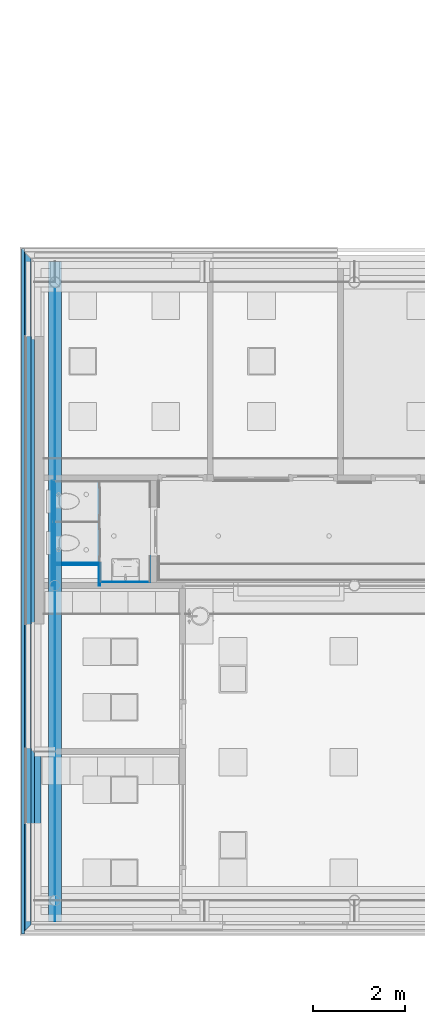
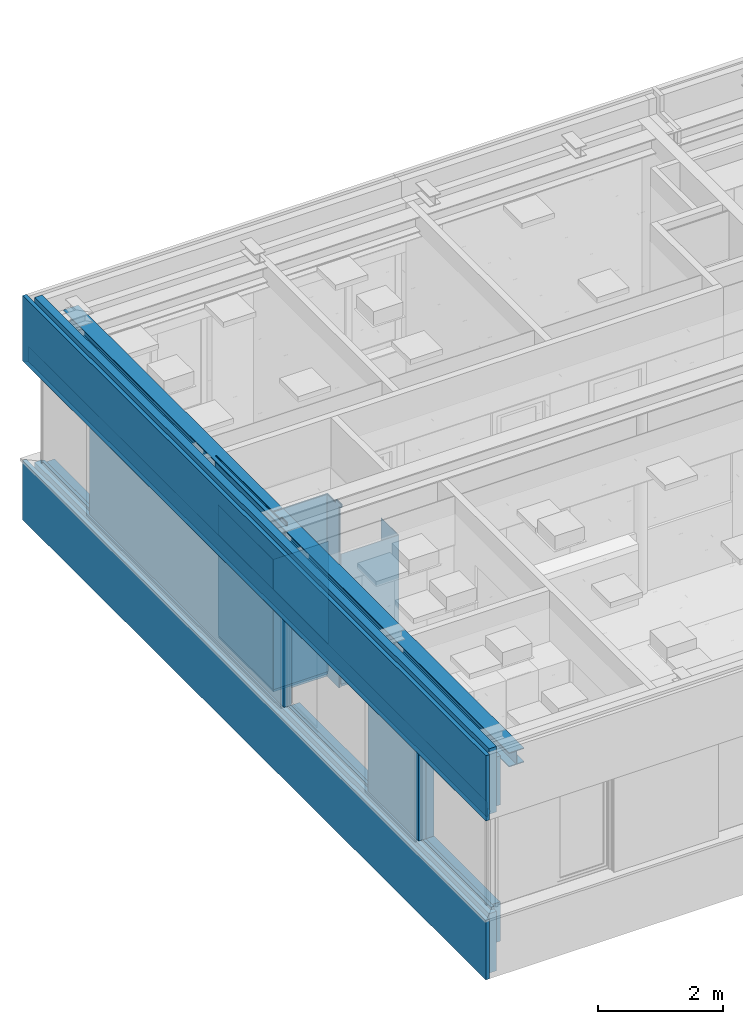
# One storey, part 91 of 347: 23 building element parts, 5 openings, 12 elements without a shape of their own, plus 1 element that does not belong to this part.
"""IFC2X3 building model written with IfcOpenShell, lengths in millimetres."""

from ifc_helpers import new_model, entity, si_unit, converted_unit, derived_unit, money_unit, direction, frame, origin_with_axes, place, context, subcontext, project, spatial, faceted_brep, material, type_object, element, aggregate, save


model = new_model("IFC2X3")

# Units and contexts
model_context = context("Model", 3, precision=0.01, world=origin_with_axes(), true_north=direction((0.0, 1.0)))
plan_context = context("Plan", 3, precision=0.01, world=origin_with_axes(), true_north=direction((0.0, 1.0)))
body_context = subcontext(model_context, "Body", "Model", "MODEL_VIEW")
ifc_project = project(units=[si_unit("LENGTHUNIT", "METRE", prefix="MILLI"), si_unit("AREAUNIT", "SQUARE_METRE"), si_unit("VOLUMEUNIT", "CUBIC_METRE"), converted_unit("PLANEANGLEUNIT", "DEGREE", entity("IfcPlaneAngleMeasure", 0.0174532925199), si_unit("PLANEANGLEUNIT", "RADIAN"), dimensions=[0, 0, 0, 0, 0, 0, 0]), money_unit("EUR"), converted_unit("TIMEUNIT", "Year", entity("IfcTimeMeasure", 31556926.0), si_unit("TIMEUNIT", "SECOND"), dimensions=[0, 0, 1, 0, 0, 0, 0]), si_unit("MASSUNIT", "GRAM", prefix="KILO"), si_unit("THERMODYNAMICTEMPERATUREUNIT", "DEGREE_CELSIUS"), si_unit("LUMINOUSINTENSITYUNIT", "LUMEN"), si_unit("ENERGYUNIT", "JOULE", prefix="MEGA"), derived_unit("THERMALCONDUCTANCEUNIT", [(si_unit("POWERUNIT", "WATT"), 1), (si_unit("LENGTHUNIT", "METRE"), -1), (si_unit("THERMODYNAMICTEMPERATUREUNIT", "KELVIN"), -1)]), derived_unit("SPECIFICHEATCAPACITYUNIT", [(si_unit("ENERGYUNIT", "JOULE"), 1), (si_unit("MASSUNIT", "GRAM", prefix="KILO"), -1), (si_unit("THERMODYNAMICTEMPERATUREUNIT", "KELVIN"), -1)]), derived_unit("MASSDENSITYUNIT", [(si_unit("MASSUNIT", "GRAM", prefix="KILO"), 1), (si_unit("VOLUMEUNIT", "CUBIC_METRE"), -1)])], contexts=[model_context, plan_context])

# Site, building, storey
site_placement = place(None, origin_with_axes())
site = spatial("IfcSite", under=ifc_project, at=site_placement, Name="Site", CompositionType="ELEMENT")
building_placement = place(site_placement, origin_with_axes())
building = spatial("IfcBuilding", under=site, at=building_placement, Name="Naam gebouw", CompositionType="ELEMENT")
storey_placement = place(building_placement, origin_with_axes())
storey = spatial("IfcBuildingStorey", under=building, at=storey_placement, Name="begane grond", CompositionType="ELEMENT", Elevation=0.0)

# Wall, building element parts
wall_type_1 = type_object("IfcWallType", Name="ALG LSW sanitair 100", PredefinedType="NOTDEFINED")
wall_1_placement = place(storey_placement, frame((5260.0, 14400.0, 0.0), z_axis=(0.0, 0.0, 1.0), x_axis=(0.0, -1.0, 0.0)))
wall_1 = element("IfcWall", 1, at=wall_1_placement, inside=storey, type_object=wall_type_1, Name="22_GF 100 ECO RD V/75.2.A")
ifc_material_1 = material(Name="ALG - LICHTE SCHEIDINGSWAND AFW")
building_element_part_1_placement = place(wall_1_placement, origin_with_axes())
building_element_part_1 = element("IfcBuildingElementPart", 2, at=building_element_part_1_placement, material=ifc_material_1, Name="ALG - LICHTE SCHEIDINGSWAND AFW", context=body_context, shape_type="Brep", body=[
    faceted_brep([(2212.5, 0.0, 3260.0), (2160.29286226, 0.0, 3260.0), (2160.29286226, 0.0, 0.0), (0.0, 0.0, 0.0), (0.0, 0.0, 3560.0), (2105.0, 0.0, 3560.0), (2105.0, 0.0, 3630.0), (2275.0, 0.0, 3630.0), (2275.0, 0.0, 3560.0), (2212.5, 0.0, 3560.0), (2212.5, -12.0, 3260.0), (2164.49184387, -12.0, 3260.0), (2164.49184387, -12.0, 0.0), (0.0, -12.0, 0.0), (0.0, -12.0, 3560.0), (2105.0, -12.0, 3560.0), (2105.0, -12.0, 3630.0), (2275.0, -12.0, 3630.0), (2275.0, -12.0, 3560.0), (2212.5, -12.0, 3560.0)], [[[0, 1, 2, 3, 4, 5, 6, 7, 8, 9]], [[1, 0, 10, 11]], [[2, 1, 11, 12]], [[2, 12, 13, 3]], [[13, 14, 4, 3]], [[15, 5, 4, 14]], [[15, 16, 6, 5]], [[7, 6, 16, 17]], [[7, 17, 18, 8]], [[18, 19, 9, 8]], [[10, 0, 9, 19]], [[10, 19, 18, 17, 16, 15, 14, 13, 12, 11]]]),
])
ifc_material_2 = material(Name="Hout - Multiplex wbp")
building_element_part_2_placement = place(wall_1_placement, origin_with_axes())
building_element_part_2 = element("IfcBuildingElementPart", 3, at=building_element_part_2_placement, material=ifc_material_2, Name="Hout - Multiplex wbp", context=body_context, shape_type="Brep", body=[
    faceted_brep([(2212.5, -12.0, 3260.0), (2164.49184387, -12.0, 3260.0), (2164.49184387, -12.0, 0.0), (0.0, -12.0, 0.0), (0.0, -12.0, 3560.0), (2105.0, -12.0, 3560.0), (2105.0, -12.0, 3630.0), (2275.0, -12.0, 3630.0), (2275.0, -12.0, 3560.0), (2212.5, -12.0, 3560.0), (2175.51179312, -30.0, 3260.0), (2164.8565559, -13.0422871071, 3260.0), (2212.5, -30.0, 3260.0), (2164.8565559, -13.0422871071, 0.0), (2175.51179312, -30.0, 0.0), (0.0, -30.0, 0.0), (0.0, -30.0, 3560.0), (2105.0, -30.0, 3560.0), (2105.0, -30.0, 3630.0), (2275.0, -30.0, 3630.0), (2275.0, -30.0, 3560.0), (2212.5, -30.0, 3560.0)], [[[0, 1, 2, 3, 4, 5, 6, 7, 8, 9]], [[10, 11, 1, 0, 12]], [[2, 1, 11, 13]], [[13, 14, 15, 3, 2]], [[15, 16, 4, 3]], [[17, 5, 4, 16]], [[17, 18, 6, 5]], [[7, 6, 18, 19]], [[7, 19, 20, 8]], [[20, 21, 9, 8]], [[12, 0, 9, 21]], [[14, 13, 11, 10]], [[10, 12, 21, 20, 19, 18, 17, 16, 15, 14]]]),
])
aggregate(wall_1, [building_element_part_1, building_element_part_2])

# Wall, openings, building element part
wall_type_2 = type_object("IfcWallType", Name="74 Kupan wand 20 x 2150", PredefinedType="NOTDEFINED")
wall_2_placement = place(storey_placement, frame((6260.00003006, 12621.0, 0.0), z_axis=(0.0, 0.0, 1.0), x_axis=(0.0, 1.0, 0.0)))
wall_2 = element("IfcWall", 4, at=wall_2_placement, inside=storey, type_object=wall_type_2, Name="22_74 sanitaire wand")
opening_1_placement = place(wall_2_placement, frame((428.999999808, 0.0, 150.0), z_axis=(0.0, 0.0, 1.0), x_axis=(1.0, 0.0, 0.0)))
element("IfcOpeningElement", 5, at=opening_1_placement, cuts=wall_2, Name="74_A.", context=body_context, shape_type="Brep", body=[
    faceted_brep([(-300.0, 26.4999992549, 2100.0), (-300.0, 26.4999992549, 0.0), (-300.0, -3.0, 0.0), (-300.0, -3.0, 2100.0), (300.0, 26.4999992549, 2100.0), (300.0, 26.4999992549, 0.0), (300.0, -3.0, 0.0), (300.0, -3.0, 2100.0)], [[[0, 1, 2, 3]], [[0, 4, 5, 1]], [[1, 5, 6, 2]], [[3, 2, 6, 7]], [[4, 0, 3, 7]], [[5, 4, 7, 6]]]),
    faceted_brep([(-300.0, -26.4999962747, 0.0), (-300.0, -26.4999962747, 2100.0), (-300.0, -3.0, 2100.0), (-300.0, -3.0, 0.0), (300.0, -26.4999962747, 0.0), (300.0, -26.4999962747, 2100.0), (300.0, -3.0, 2100.0), (300.0, -3.0, 0.0)], [[[0, 1, 2, 3]], [[0, 4, 5, 1]], [[1, 5, 6, 2]], [[3, 2, 6, 7]], [[4, 0, 3, 7]], [[5, 4, 7, 6]]]),
])
opening_2_placement = place(wall_2_placement, frame((1328.99999981, 0.0, 150.0), z_axis=(0.0, 0.0, 1.0), x_axis=(1.0, 0.0, 0.0)))
element("IfcOpeningElement", 6, at=opening_2_placement, cuts=wall_2, Name="74_A.", context=body_context, shape_type="Brep", body=[
    faceted_brep([(300.0, -3.0, 2100.0), (300.0, -3.0, 0.0), (300.0, 26.4999992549, 0.0), (300.0, 26.4999992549, 2100.0), (-300.0, -3.0, 2100.0), (-300.0, -3.0, 0.0), (-300.0, 26.4999992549, 0.0), (-300.0, 26.4999992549, 2100.0)], [[[0, 1, 2, 3]], [[0, 4, 5, 1]], [[1, 5, 6, 2]], [[3, 2, 6, 7]], [[4, 0, 3, 7]], [[5, 4, 7, 6]]]),
    faceted_brep([(300.0, -3.0, 0.0), (300.0, -3.0, 2100.0), (300.0, -26.4999962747, 2100.0), (300.0, -26.4999962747, 0.0), (-300.0, -3.0, 0.0), (-300.0, -3.0, 2100.0), (-300.0, -26.4999962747, 2100.0), (-300.0, -26.4999962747, 0.0)], [[[0, 1, 2, 3]], [[0, 4, 5, 1]], [[1, 5, 6, 2]], [[3, 2, 6, 7]], [[4, 0, 3, 7]], [[5, 4, 7, 6]]]),
])
ifc_material_3 = material(Name="Metaal - Aluminium")
building_element_part_3_placement = place(wall_2_placement, origin_with_axes())
building_element_part_3 = element("IfcBuildingElementPart", 7, at=building_element_part_3_placement, material=ifc_material_3, Name="Metaal - Aluminium", context=body_context, shape_type="Brep", body=[
    faceted_brep([(1758.0, 10.0, 2300.0), (1758.0, 10.0, 2250.0), (0.0, 10.0, 2250.0), (0.0, 10.0, 2300.0), (1758.0, -10.0, 2300.0), (1758.0, -10.0, 2250.0), (1758.0, -6.49999627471, 2249.99999255), (1758.0, 6.49999925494, 2249.99999255), (0.0, 6.49999925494, 2249.99999255), (0.0, -6.49999627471, 2249.99999255), (0.0, -10.0, 2250.0), (0.0, -10.0, 2300.0)], [[[0, 1, 2, 3]], [[0, 4, 5, 6, 7, 1]], [[1, 7, 8, 2]], [[3, 2, 8, 9, 10, 11]], [[4, 0, 3, 11]], [[5, 4, 11, 10]], [[6, 5, 10, 9]], [[7, 6, 9, 8]]]),
])
aggregate(wall_2, [building_element_part_3])

# Wall, building element parts
wall_3_placement = place(storey_placement, frame((5260.0, 12600.0, 0.0), z_axis=(0.0, 0.0, 1.0), x_axis=(1.0, 0.0, 0.0)))
wall_3 = element("IfcWall", 8, at=wall_3_placement, inside=storey, type_object=wall_type_1, Name="22_GF 100 ECO RD V/75.2.A")
building_element_part_4_placement = place(wall_3_placement, origin_with_axes())
building_element_part_4 = element("IfcBuildingElementPart", 9, at=building_element_part_4_placement, material=ifc_material_1, Name="ALG - LICHTE SCHEIDINGSWAND AFW", context=body_context, shape_type="Brep", body=[
    faceted_brep([(0.0, 0.0, 3560.0), (1015.00002634, 0.0, 3560.0), (1015.00002634, 0.0, 0.0), (0.0, 0.0, 0.0), (1015.00002634, -12.0, 3560.0), (0.0, -12.0, 3560.0), (1015.00002634, -12.0, 0.0), (0.0, -12.0, 0.0)], [[[0, 1, 2, 3]], [[4, 1, 0, 5]], [[1, 4, 6, 2]], [[2, 6, 7, 3]], [[5, 0, 3, 7]], [[4, 5, 7, 6]]]),
])
building_element_part_5_placement = place(wall_3_placement, origin_with_axes())
building_element_part_5 = element("IfcBuildingElementPart", 10, at=building_element_part_5_placement, material=ifc_material_2, Name="Hout - Multiplex wbp", context=body_context, shape_type="Brep", body=[
    faceted_brep([(0.0, -12.0, 3560.0), (1003.00002634, -12.0, 3560.0), (1003.00002634, -12.0, 0.0), (0.0, -12.0, 0.0), (1003.00002634, -30.0, 3560.0), (0.0, -30.0, 3560.0), (1003.00002634, -30.0, 0.0), (0.0, -30.0, 0.0)], [[[0, 1, 2, 3]], [[4, 1, 0, 5]], [[1, 4, 6, 2]], [[2, 6, 7, 3]], [[5, 0, 3, 7]], [[4, 5, 7, 6]]]),
])
aggregate(wall_3, [building_element_part_4, building_element_part_5])

# Wall, openings, building element parts
wall_type_3 = type_object("IfcWallType", Name="22 beg hout (2600+) borstwering' 430 x 4390", PredefinedType="NOTDEFINED")
wall_4_placement = place(storey_placement, frame((5000.0, 19000.0, 0.0), z_axis=(0.0, 0.0, 1.0), x_axis=(0.0, -1.0, 0.0)))
wall_4 = element("IfcWall", 11, at=wall_4_placement, inside=storey, type_object=wall_type_3, Name="21_21 betonwand")
opening_3_placement = place(wall_4_placement, frame((9060.00135684, 0.0, 700.0), z_axis=(0.0, 0.0, 1.0), x_axis=(1.0, 0.0, 0.0)))
element("IfcOpeningElement", 12, at=opening_3_placement, cuts=wall_4, Name="31_-", context=body_context, shape_type="Brep", body=[
    faceted_brep([(1349.99864316, -860.000161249, 1900.0), (1349.99864316, -860.000161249, 0.0), (1349.99864316, -302.00008173, 0.0), (1349.99864316, -302.00008173, 1900.0), (-1349.99864316, -860.000161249, 1900.0), (-1349.99864316, -860.000161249, 0.0), (-1349.99864316, -302.00008173, 0.0), (-1349.99864316, -302.00008173, 1900.0)], [[[0, 1, 2, 3]], [[0, 4, 5, 1]], [[1, 5, 6, 2]], [[3, 2, 6, 7]], [[4, 0, 3, 7]], [[5, 4, 7, 6]]]),
    faceted_brep([(1349.99864316, 255.99999779, 0.0), (1349.99864316, 255.99999779, 1900.0), (1349.99864316, -302.00008173, 1900.0), (1349.99864316, -302.00008173, 0.0), (-1349.99864316, 255.99999779, 0.0), (-1349.99864316, 255.99999779, 1900.0), (-1349.99864316, -302.00008173, 1900.0), (-1349.99864316, -302.00008173, 0.0)], [[[0, 1, 2, 3]], [[0, 4, 5, 1]], [[1, 5, 6, 2]], [[3, 2, 6, 7]], [[4, 0, 3, 7]], [[5, 4, 7, 6]]]),
])
opening_4_placement = place(wall_4_placement, frame((562.500009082, 0.0, 700.0), z_axis=(0.0, 0.0, 1.0), x_axis=(1.0, 0.0, 0.0)))
element("IfcOpeningElement", 13, at=opening_4_placement, cuts=wall_4, Name="31_-", context=body_context, shape_type="Brep", body=[
    faceted_brep([(912.499994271, -860.000161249, 1900.0), (912.499994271, -860.000161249, 0.0), (912.499994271, -302.00008173, 0.0), (912.499994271, -302.00008173, 1900.0), (-912.499994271, -860.000161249, 1900.0), (-912.499994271, -860.000161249, 0.0), (-912.499994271, -302.00008173, 0.0), (-912.499994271, -302.00008173, 1900.0)], [[[0, 1, 2, 3]], [[0, 4, 5, 1]], [[1, 5, 6, 2]], [[3, 2, 6, 7]], [[4, 0, 3, 7]], [[5, 4, 7, 6]]]),
    faceted_brep([(912.499994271, 255.99999779, 0.0), (912.499994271, 255.99999779, 1900.0), (912.499994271, -302.00008173, 1900.0), (912.499994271, -302.00008173, 0.0), (-912.499994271, 255.99999779, 0.0), (-912.499994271, 255.99999779, 1900.0), (-912.499994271, -302.00008173, 1900.0), (-912.499994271, -302.00008173, 0.0)], [[[0, 1, 2, 3]], [[0, 4, 5, 1]], [[1, 5, 6, 2]], [[3, 2, 6, 7]], [[4, 0, 3, 7]], [[5, 4, 7, 6]]]),
])
opening_5_placement = place(wall_4_placement, frame((13187.4999711, 0.0, 700.0), z_axis=(0.0, 0.0, 1.0), x_axis=(1.0, 0.0, 0.0)))
element("IfcOpeningElement", 14, at=opening_5_placement, cuts=wall_4, Name="31_-", context=body_context, shape_type="Brep", body=[
    faceted_brep([(1162.5, -860.000161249, 1900.0), (1162.5, -860.000161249, 0.0), (1162.5, -302.00008173, 0.0), (1162.5, -302.00008173, 1900.0), (-1162.5, -860.000161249, 1900.0), (-1162.5, -860.000161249, 0.0), (-1162.5, -302.00008173, 0.0), (-1162.5, -302.00008173, 1900.0)], [[[0, 1, 2, 3]], [[0, 4, 5, 1]], [[1, 5, 6, 2]], [[3, 2, 6, 7]], [[4, 0, 3, 7]], [[5, 4, 7, 6]]]),
    faceted_brep([(1162.5, 255.99999779, 0.0), (1162.5, 255.99999779, 1900.0), (1162.5, -302.00008173, 1900.0), (1162.5, -302.00008173, 0.0), (-1162.5, 255.99999779, 0.0), (-1162.5, 255.99999779, 1900.0), (-1162.5, -302.00008173, 1900.0), (-1162.5, -302.00008173, 0.0)], [[[0, 1, 2, 3]], [[0, 4, 5, 1]], [[1, 5, 6, 2]], [[3, 2, 6, 7]], [[4, 0, 3, 7]], [[5, 4, 7, 6]]]),
])
ifc_material_4 = material(Name="Steen - Kalkzandsteen C")
building_element_part_6_placement = place(wall_4_placement, origin_with_axes())
building_element_part_6 = element("IfcBuildingElementPart", 15, at=building_element_part_6_placement, material=ifc_material_4, Name="Steen - Kalkzandsteen C", context=body_context, shape_type="Brep", body=[
    faceted_brep([(7710.0, -150.002740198, 700.0), (10410.0, -150.002740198, 700.0), (10410.0, -2.79895280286e-05, 700.0), (7710.0, -2.79895280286e-05, 700.0), (14149.9999784, -150.0, -70.0), (14149.9999788, -150.0, 700.0), (12024.9999711, -150.0, 700.0), (12024.9999711, -150.0, 720.0), (12024.9999711, -150.0, 2600.0), (14150.0000429, -150.0, 2600.0), (14150.0000757, -150.0, 3560.0), (7710.00271367, -150.0, 3560.0), (7710.00271367, -150.0, 2600.0), (10410.0, -150.0, 2600.0), (10410.0, -150.002740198, 720.0), (7710.00271367, -150.0, -70.0), (10410.0, -2.79895280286e-05, 720.0), (14000.0, 1.7530934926e-05, 700.0), (14149.9999788, -2.21048601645e-06, 700.0), (14149.9999786, -2.21048601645e-06, -70.0), (7710.00271367, 6.51296261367e-06, -70.0), (10410.0, -2.21048601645e-06, 2600.0), (7710.00271367, -2.21048601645e-06, 2600.0), (7710.00271367, 9.27322929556e-06, 3560.0), (14150.0000757, -2.21049312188e-06, 3560.0), (14150.0000429, -2.21049045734e-06, 2600.0), (12024.9999711, 1.75309340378e-05, 2600.0), (12024.9999711, 1.7530934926e-05, 720.0), (12024.9999711, 1.7530934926e-05, 700.0)], [[[0, 1, 2, 3]], [[4, 5, 6, 7, 8, 9, 10, 11, 12, 13, 14, 1, 0, 15]], [[1, 14, 16, 2]], [[17, 18, 19, 20, 3, 2, 16, 21, 22, 23, 24, 25, 26, 27, 28]], [[15, 0, 3, 20]], [[5, 4, 19, 18]], [[6, 5, 18, 17, 28]], [[7, 6, 28, 27]], [[8, 7, 27, 26]], [[9, 8, 26, 25]], [[10, 9, 25, 24]], [[10, 24, 23, 11]], [[12, 11, 23, 22]], [[13, 12, 22, 21]], [[14, 13, 21, 16]], [[4, 15, 20, 19]]]),
    faceted_brep([(-150.0, -150.0, -70.0), (1475.00000335, -150.0, -70.0), (1475.00000335, -150.0, 700.0), (-149.99999285, -150.0, 700.0), (-150.0, -2.2104922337e-06, -70.0), (1475.00000335, 6.51296172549e-06, -70.0), (1475.00000335, 1.75309322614e-05, 700.0), (-1.40625360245e-05, 1.75309322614e-05, 700.0), (-149.99999285, -2.2104922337e-06, 700.0)], [[[0, 1, 2, 3]], [[1, 0, 4, 5]], [[6, 2, 1, 5]], [[3, 2, 6, 7, 8]], [[0, 3, 8, 4]], [[4, 8, 7, 6, 5]]]),
    faceted_brep([(-149.999997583, -150.0, 2600.0), (1475.00000335, -150.0, 2600.0), (1475.00000335, -150.0, 3560.0), (-150.0, -150.0, 3560.0), (-149.999997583, -2.21048956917e-06, 2600.0), (1475.00000335, 1.75309340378e-05, 2600.0), (1475.00000335, 9.27322840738e-06, 3560.0), (-150.0, -2.21048868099e-06, 3560.0)], [[[0, 1, 2, 3]], [[1, 0, 4, 5]], [[1, 5, 6, 2]], [[7, 3, 2, 6]], [[0, 3, 7, 4]], [[4, 7, 6, 5]]]),
])
ifc_material_5 = material(Name="Isolatie - Kunststof hard")
building_element_part_7_placement = place(wall_4_placement, origin_with_axes())
building_element_part_7 = element("IfcBuildingElementPart", 16, at=building_element_part_7_placement, material=ifc_material_5, Name="Isolatie - Kunststof hard", context=body_context, shape_type="Brep", body=[
    faceted_brep([(14289.9999758, -149.999985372, 2600.0), (12024.9999711, -149.999985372, 2600.0), (12024.9999711, -149.999985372, 700.0), (14209.999958, -149.999985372, 700.0), (14209.9999717, -149.999985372, 654.999993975), (14289.9999936, -149.999985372, 654.999993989), (14289.9999936, -149.999976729, -80.0000207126), (-289.999993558, -149.999976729, -80.0000207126), (-289.999993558, -149.999985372, 654.999993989), (-209.999971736, -149.999985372, 654.99999393), (-209.999957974, -149.999985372, 700.0), (1475.00000335, -149.999985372, 700.0), (1475.00000335, -149.999985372, 2600.0), (-289.999975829, -149.999985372, 2600.0), (-289.999975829, -149.999985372, 3880.00000823), (14289.9999758, -149.999985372, 3880.00000823), (10410.0, -149.999985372, 700.0), (10410.0, -149.999985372, 2600.0), (7710.00271367, -149.999985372, 2600.0), (7710.00271367, -149.999985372, 700.0), (14289.9999758, -289.999979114, 2600.0), (12024.9999711, -289.999979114, 2600.0), (12024.9999711, -289.999979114, 700.0), (12024.9999711, -209.999992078, 700.0), (14209.999958, -209.999992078, 700.0), (14209.9999717, -209.999992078, 654.999993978), (14209.9999717, -209.999957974, 697.961795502), (-209.999971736, -209.999992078, 654.999993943), (-289.999993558, -289.999979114, 654.999993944), (14289.9999936, -289.999979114, 654.999993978), (14289.9999936, -149.999985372, -510.0), (14289.9999936, -289.999979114, -510.0), (-289.999993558, -149.999985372, -510.0), (-289.999993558, -289.999979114, -510.0), (-209.999957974, -209.999992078, 700.0), (-209.999971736, -209.999957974, 697.961795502), (1475.00000335, -209.999992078, 700.0), (1475.00000335, -289.999979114, 700.0), (1475.00000335, -289.999979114, 2600.0), (-289.999975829, -289.999979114, 2600.0), (-289.999975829, -289.999979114, 3880.00000823), (14289.9999758, -289.999979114, 3880.00000823), (10410.0, -209.999992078, 700.0), (10410.0, -289.999979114, 700.0), (10410.0, -289.999979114, 2600.0), (7710.00271367, -289.999979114, 2600.0), (7710.00271367, -289.999979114, 700.0), (7710.00271367, -209.999992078, 700.0)], [[[0, 1, 2, 3, 4, 5, 6, 7, 8, 9, 10, 11, 12, 13, 14, 15], [16, 17, 18, 19]], [[20, 21, 1, 0]], [[22, 23, 2, 1, 21]], [[23, 24, 3, 2]], [[25, 4, 3, 24, 26]], [[5, 4, 25, 27, 9, 8, 28, 29]], [[30, 6, 5, 29, 31]], [[32, 7, 6, 30]], [[33, 28, 8, 7, 32]], [[34, 10, 9, 27, 35]], [[36, 11, 10, 34]], [[12, 11, 36, 37, 38]], [[38, 39, 13, 12]], [[14, 13, 39, 40]], [[14, 40, 41, 15]], [[15, 41, 20, 0]], [[42, 43, 44, 17, 16]], [[18, 17, 44, 45]], [[45, 46, 47, 19, 18]], [[16, 19, 47, 42]], [[43, 22, 21, 20, 41, 40, 39, 38, 37, 46, 45, 44]], [[43, 42, 23, 22]], [[35, 26, 24, 23, 42, 47, 36, 34]], [[35, 27, 25, 26]], [[28, 33, 31, 29]], [[33, 32, 30, 31]], [[46, 37, 36, 47]]]),
])
ifc_material_6 = material(Name="Steen - Baksteen")
building_element_part_8_placement = place(wall_4_placement, origin_with_axes())
building_element_part_8 = element("IfcBuildingElementPart", 17, at=building_element_part_8_placement, material=ifc_material_6, Name="Steen - Baksteen", context=body_context, shape_type="Brep", body=[
    faceted_brep([(14430.0000649, -360.000022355, 2600.0000401), (-430.00006493, -360.000022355, 2600.0000401), (-430.00006493, -360.000022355, 3880.00000823), (14430.0000649, -360.000022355, 3880.00000823), (14430.0000649, -430.00008173, 2600.0000401), (-430.00006493, -430.00008173, 2600.0000401), (-430.00006493, -430.00008173, 3880.00000823), (14430.0000649, -430.00008173, 3880.00000823)], [[[0, 1, 2, 3]], [[4, 5, 1, 0]], [[5, 6, 2, 1]], [[3, 2, 6, 7]], [[4, 0, 3, 7]], [[7, 6, 5, 4]]]),
])
building_element_part_9_placement = place(wall_4_placement, origin_with_axes())
building_element_part_9 = element("IfcBuildingElementPart", 18, at=building_element_part_9_placement, material=ifc_material_6, Name="Steen - Baksteen", context=body_context, shape_type="Brep", body=[
    faceted_brep([(-430.00006493, -360.000063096, -510.0), (-430.00006493, -360.000063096, 654.999993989), (14430.0000649, -360.000063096, 654.999993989), (14430.0000649, -360.000063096, -510.0), (-430.00006493, -430.00008173, -510.0), (-430.00006493, -430.00008173, 654.999993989), (14430.0000649, -430.00008173, 654.999993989), (14430.0000649, -430.00008173, -510.0)], [[[0, 1, 2, 3]], [[1, 0, 4, 5]], [[1, 5, 6, 2]], [[3, 2, 6, 7]], [[4, 0, 3, 7]], [[5, 4, 7, 6]]]),
])
aggregate(wall_4, [building_element_part_6, building_element_part_7, building_element_part_8, building_element_part_9])

# Beam, building element parts
beam_type_1 = type_object("IfcBeamType", Name="28 HEB280 280 x 280", PredefinedType="BEAM")
beam_1_placement = place(storey_placement, frame((5300.0, 19150.0, 3560.0), z_axis=(0.0, 0.0, 1.0), x_axis=(-1.0, 0.0, 0.0)))
beam_1 = element("IfcBeam", 19, at=beam_1_placement, inside=storey, type_object=beam_type_1, Name="28_Balk-x", ObjectType="BEAM")
ifc_material_7 = material(Name="Metaal - Staal C")
building_element_part_10_placement = place(beam_1_placement, origin_with_axes())
building_element_part_10 = element("IfcBuildingElementPart", 20, at=building_element_part_10_placement, material=ifc_material_7, Name="Metaal - Staal C", context=body_context, shape_type="Brep", body=[
    faceted_brep([(-140.0, 14300.0, -15.0000017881), (-5.25, 14300.0, -15.0000017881), (-5.25, 0.0, -15.0000017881), (-140.0, 0.0, -15.0000017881), (-140.0, 14300.0, 1.19209397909e-06), (140.0, 14300.0, 1.19209397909e-06), (140.0, 14300.0, -15.0000017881), (5.25, 14300.0, -15.0000017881), (5.25, 0.0, -15.0000017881), (140.0, 0.0, -15.0000017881), (140.0, 0.0, 1.19209397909e-06), (-140.0, 0.0, 1.19209397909e-06)], [[[0, 1, 2, 3]], [[0, 4, 5, 6, 7, 1]], [[1, 7, 8, 2]], [[3, 2, 8, 9, 10, 11]], [[4, 0, 3, 11]], [[5, 4, 11, 10]], [[6, 5, 10, 9]], [[7, 6, 9, 8]]]),
])
building_element_part_11_placement = place(beam_1_placement, origin_with_axes())
building_element_part_11 = element("IfcBuildingElementPart", 21, at=building_element_part_11_placement, material=ifc_material_7, Name="Metaal - Staal C", context=body_context, shape_type="Brep", body=[
    faceted_brep([(-140.0, 14300.0, -265.000001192), (-140.0, 14300.0, -280.0), (-140.0, 0.0, -280.0), (-140.0, 0.0, -265.000001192), (-5.25, 14300.0, -265.000001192), (5.25, 14300.0, -265.000001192), (140.0, 14300.0, -265.000001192), (140.0, 14300.0, -280.0), (140.0, 0.0, -280.0), (140.0, 0.0, -265.000001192), (5.25, 0.0, -265.000001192), (-5.25, 0.0, -265.000001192)], [[[0, 1, 2, 3]], [[0, 4, 5, 6, 7, 1]], [[1, 7, 8, 2]], [[3, 2, 8, 9, 10, 11]], [[4, 0, 3, 11]], [[5, 4, 11, 10]], [[6, 5, 10, 9]], [[7, 6, 9, 8]]]),
])
building_element_part_12_placement = place(beam_1_placement, origin_with_axes())
building_element_part_12 = element("IfcBuildingElementPart", 22, at=building_element_part_12_placement, material=ifc_material_7, Name="Metaal - Staal C", context=body_context, shape_type="Brep", body=[
    faceted_brep([(-5.25, 14300.0, -15.0), (-5.25, 14300.0, -265.0), (-5.25, 0.0, -265.0), (-5.25, 0.0, -15.0), (5.25, 14300.0, -15.0), (5.25, 14300.0, -265.0), (5.25, 0.0, -265.0), (5.25, 0.0, -15.0)], [[[0, 1, 2, 3]], [[0, 4, 5, 1]], [[1, 5, 6, 2]], [[3, 2, 6, 7]], [[4, 0, 3, 7]], [[5, 4, 7, 6]]]),
])
aggregate(beam_1, [building_element_part_10, building_element_part_11, building_element_part_12])

# Proxy, building element parts
building_element_proxy_type = type_object("IfcBuildingElementProxyType", Name="wandtegels 150x300 2600+ 10 x 2600", PredefinedType="NOTDEFINED")
proxy_1_placement = place(storey_placement, frame((6285.00002634, 12197.5000075, 0.0), z_axis=(0.0, 0.0, 1.0), x_axis=(1.0, 0.0, 0.0)))
proxy_1 = element("IfcBuildingElementProxy", 23, at=proxy_1_placement, inside=storey, type_object=building_element_proxy_type, Name="42_55 wandtegels keramisch")
ifc_material_8 = material(Name="48 vloeivloer Bolidt")
building_element_part_13_placement = place(proxy_1_placement, origin_with_axes())
building_element_part_13 = element("IfcBuildingElementPart", 24, at=building_element_part_13_placement, material=ifc_material_8, Name="48 vloeivloer Bolidt", context=body_context, shape_type="Brep", body=[
    faceted_brep([(10.0000089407, 10.0000089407, 0.0), (10.0000089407, 10.0000089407, 50.0000059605), (1071.99997068, 10.0000089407, 50.0000059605), (1071.99997068, 10.0000089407, 0.0), (10.0000089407, 8.00001490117, 50.0000059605), (10.0000089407, 8.00001490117, 0.0), (1071.99997068, 8.00001490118, 50.0000059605), (1071.99997068, 8.00001490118, 0.0)], [[[0, 1, 2, 3]], [[4, 1, 0, 5]], [[1, 4, 6, 2]], [[7, 3, 2, 6]], [[5, 0, 3, 7]], [[4, 5, 7, 6]]]),
])
ifc_material_9 = material(Name="Tegels - Wand")
building_element_part_14_placement = place(proxy_1_placement, origin_with_axes())
building_element_part_14 = element("IfcBuildingElementPart", 25, at=building_element_part_14_placement, material=ifc_material_9, Name="Tegels - Wand", context=body_context, shape_type="Brep", body=[
    faceted_brep([(10.0, 10.0, 50.0), (10.0, 10.0, 2600.0), (1079.99998558, 10.0, 2600.0), (1079.99998558, 10.0, 50.0000059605), (10.0, 0.0, 2600.0), (10.0, 8.00001490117, 50.0), (10.0, 0.0, 50.0), (1079.99998558, 0.0, 2600.0), (1079.99998558, 8.00001490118, 50.0000059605), (1079.99998558, 0.0, 50.0000059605)], [[[0, 1, 2, 3]], [[4, 1, 0, 5, 6]], [[1, 4, 7, 2]], [[8, 3, 2, 7, 9]], [[5, 0, 3, 8]], [[6, 5, 8, 9]], [[4, 6, 9, 7]]]),
])
aggregate(proxy_1, [building_element_part_13, building_element_part_14])

# Proxy, building element part
proxy_2_placement = place(storey_placement, frame((6285.00002634, 12610.0000183, 0.0), z_axis=(0.0, 0.0, 1.0), x_axis=(0.0, -1.0, 0.0)))
proxy_2 = element("IfcBuildingElementProxy", 26, at=proxy_2_placement, inside=storey, type_object=building_element_proxy_type, Name="42_54 wandtegels keramisch")
building_element_part_15_placement = place(proxy_2_placement, origin_with_axes())
building_element_part_15 = element("IfcBuildingElementPart", 27, at=building_element_part_15_placement, material=ifc_material_9, Name="Tegels - Wand", context=body_context, shape_type="Brep", body=[
    faceted_brep([(0.0, 10.0, 50.0), (0.0, 10.0, 2600.0), (412.500022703, 10.0, 2600.0), (412.500022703, 10.0, 50.0000059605), (0.0, 0.0, 2600.0), (0.0, 8.00001490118, 50.0), (0.0, 0.0, 50.0), (412.500022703, 0.0, 2600.0), (412.500022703, 8.00001490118, 50.0000059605), (412.500022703, 0.0, 50.0000059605)], [[[0, 1, 2, 3]], [[4, 1, 0, 5, 6]], [[1, 4, 7, 2]], [[8, 3, 2, 7, 9]], [[5, 0, 3, 8]], [[6, 5, 8, 9]], [[4, 6, 9, 7]]]),
])
aggregate(proxy_2, [building_element_part_15])

# Proxy, building element parts
proxy_3_placement = place(storey_placement, frame((5270.0, 12610.0000183, 0.0), z_axis=(0.0, 0.0, 1.0), x_axis=(1.0, 0.0, 0.0)))
proxy_3 = element("IfcBuildingElementProxy", 28, at=proxy_3_placement, inside=storey, type_object=building_element_proxy_type, Name="42_53 wandtegels keramisch")
building_element_part_16_placement = place(proxy_3_placement, origin_with_axes())
building_element_part_16 = element("IfcBuildingElementPart", 29, at=building_element_part_16_placement, material=ifc_material_8, Name="48 vloeivloer Bolidt", context=body_context, shape_type="Brep", body=[
    faceted_brep([(10.0000089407, 10.0000089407, 0.0), (10.0000089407, 10.0000089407, 50.0000059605), (1025.00002336, 10.0000089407, 50.0000059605), (1025.00002336, 10.0000089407, 0.0), (10.0000089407, 8.00001490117, 50.0000059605), (10.0000089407, 8.00001490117, 0.0), (1025.00002336, 8.00001490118, 50.0000059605), (1025.00002336, 8.00001490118, 0.0)], [[[0, 1, 2, 3]], [[4, 1, 0, 5]], [[1, 4, 6, 2]], [[7, 3, 2, 6]], [[5, 0, 3, 7]], [[4, 5, 7, 6]]]),
])
building_element_part_17_placement = place(proxy_3_placement, origin_with_axes())
building_element_part_17 = element("IfcBuildingElementPart", 30, at=building_element_part_17_placement, material=ifc_material_9, Name="Tegels - Wand", context=body_context, shape_type="Brep", body=[
    faceted_brep([(10.0, 10.0, 50.0), (10.0, 10.0, 2600.0), (1025.00002336, 10.0, 2600.0), (1025.00002336, 10.0, 50.0000059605), (10.0, 0.0, 2600.0), (10.0, 8.00001490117, 50.0), (10.0, 0.0, 50.0), (1025.00002336, 0.0, 2600.0), (1025.00002336, 8.00001490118, 50.0000059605), (1025.00002336, 0.0, 50.0000059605)], [[[0, 1, 2, 3]], [[4, 1, 0, 5, 6]], [[1, 4, 7, 2]], [[8, 3, 2, 7, 9]], [[5, 0, 3, 8]], [[6, 5, 8, 9]], [[4, 6, 9, 7]]]),
])
aggregate(proxy_3, [building_element_part_16, building_element_part_17])

proxy_4_placement = place(storey_placement, frame((5270.0, 14389.999981, 0.0), z_axis=(0.0, 0.0, 1.0), x_axis=(0.0, -1.0, 0.0)))
proxy_4 = element("IfcBuildingElementProxy", 31, at=proxy_4_placement, inside=storey, type_object=building_element_proxy_type, Name="42_52 wandtegels keramisch")
building_element_part_18_placement = place(proxy_4_placement, origin_with_axes())
building_element_part_18 = element("IfcBuildingElementPart", 32, at=building_element_part_18_placement, material=ifc_material_8, Name="48 vloeivloer Bolidt", context=body_context, shape_type="Brep", body=[
    faceted_brep([(10.0000089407, 10.0000089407, 0.0), (10.0000089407, 10.0000089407, 50.0000059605), (1771.99995977, 10.0000089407, 50.0000059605), (1771.99995977, 10.0000089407, 0.0), (10.0000089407, 8.00001490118, 50.0000059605), (10.0000089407, 8.00001490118, 0.0), (1771.99995977, 8.00001490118, 50.0000059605), (1771.99995977, 8.00001490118, 0.0)], [[[0, 1, 2, 3]], [[4, 1, 0, 5]], [[1, 4, 6, 2]], [[7, 3, 2, 6]], [[5, 0, 3, 7]], [[4, 5, 7, 6]]]),
])
building_element_part_19_placement = place(proxy_4_placement, origin_with_axes())
building_element_part_19 = element("IfcBuildingElementPart", 33, at=building_element_part_19_placement, material=ifc_material_9, Name="Tegels - Wand", context=body_context, shape_type="Brep", body=[
    faceted_brep([(10.0, 10.0, 50.0), (10.0, 10.0, 2600.0), (1779.99997467, 10.0, 2600.0), (1779.99997467, 10.0, 50.0000059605), (10.0, 0.0, 2600.0), (10.0, 8.00001490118, 50.0), (10.0, 0.0, 50.0), (1779.99997467, 0.0, 2600.0), (1779.99997467, 8.00001490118, 50.0000059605), (1779.99997467, 0.0, 50.0000059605)], [[[0, 1, 2, 3]], [[4, 1, 0, 5, 6]], [[1, 4, 7, 2]], [[8, 3, 2, 7, 9]], [[5, 0, 3, 8]], [[6, 5, 8, 9]], [[4, 6, 9, 7]]]),
])
aggregate(proxy_4, [building_element_part_18, building_element_part_19])

# Proxy, building element part
proxy_5_placement = place(storey_placement, frame((7365.0, 12197.5000075, 0.0), z_axis=(0.0, 0.0, 1.0), x_axis=(0.0, 1.0, 0.0)))
proxy_5 = element("IfcBuildingElementProxy", 34, at=proxy_5_placement, inside=storey, type_object=building_element_proxy_type, Name="42_56 wandtegels keramisch")
building_element_part_20_placement = place(proxy_5_placement, origin_with_axes())
building_element_part_20 = element("IfcBuildingElementPart", 35, at=building_element_part_20_placement, material=ifc_material_9, Name="Tegels - Wand", context=body_context, shape_type="Brep", body=[
    faceted_brep([(10.0, 10.0, 2600.0), (10.0, 0.0, 2600.0), (564.274992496, 0.0, 2600.0), (564.274992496, 10.0, 2600.0), (10.0, 0.0, 50.0), (10.0, 10.0, 50.0), (10.0, 8.00001490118, 50.0), (564.274992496, 0.0, 50.0), (564.274992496, 10.0, 50.0), (564.274992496, 8.00001490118, 50.0000059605)], [[[0, 1, 2, 3]], [[4, 1, 0, 5, 6]], [[1, 4, 7, 2]], [[8, 3, 2, 7, 9]], [[5, 0, 3, 8]], [[6, 5, 8, 9]], [[4, 6, 9, 7]]]),
])
aggregate(proxy_5, [building_element_part_20])

# Beam, building element parts
beam_type_2 = type_object("IfcBeamType", Name="21 geveldrager (2600+) 208 x 300", PredefinedType="LINTEL")
beam_2_placement = place(storey_placement, frame((5000.0, 19000.0, 0.0), z_axis=(0.0, 0.0, 1.0), x_axis=(-1.0, 0.0, 0.0)))
beam_2 = element("IfcBeam", 36, at=beam_2_placement, inside=storey, type_object=beam_type_2, Name="21_21 geveldrager", ObjectType="LINTEL")
building_element_part_21_placement = place(beam_2_placement, origin_with_axes())
building_element_part_21 = element("IfcBuildingElementPart", 37, at=building_element_part_21_placement, material=ifc_material_7, Name="Metaal - Staal C", context=body_context, shape_type="Brep", body=[
    faceted_brep([(359.999999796, 14359.9999998, 2605.00000002), (359.999999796, 14359.9999998, 2900.00000119), (359.999999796, -359.999999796, 2900.00000119), (359.999999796, -359.999999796, 2605.00000002), (430.000000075, 14430.0000001, 2605.00000002), (430.000000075, 14430.0000001, 2600.0), (354.999995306, 14354.9999953, 2600.0), (354.999995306, 14354.9999953, 2601.0), (354.999995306, 14354.9999953, 2900.00000119), (354.999995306, -354.999995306, 2900.00000119), (354.999995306, -354.999995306, 2601.0), (354.999995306, -354.999995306, 2600.0), (430.000000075, -430.000000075, 2600.0), (430.000000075, -430.000000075, 2605.00000002)], [[[0, 1, 2, 3]], [[0, 4, 5, 6, 7, 8, 1]], [[1, 8, 9, 2]], [[3, 2, 9, 10, 11, 12, 13]], [[4, 0, 3, 13]], [[5, 4, 13, 12]], [[6, 5, 12, 11]], [[7, 6, 11, 10]], [[8, 7, 10, 9]]]),
])
building_element_part_22_placement = place(beam_2_placement, origin_with_axes())
building_element_part_22 = element("IfcBuildingElementPart", 38, at=building_element_part_22_placement, material=ifc_material_7, Name="Metaal - Staal C", context=body_context, shape_type="Brep", body=[
    faceted_brep([(354.999996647, 14354.9999966, 2601.0), (222.0, 14222.0, 2601.0), (222.0, -222.0, 2601.0), (354.999996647, -354.999996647, 2601.0), (354.999996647, 14354.9999966, 2600.0), (222.0, 14222.0, 2600.0), (222.0, -222.0, 2600.0), (354.999996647, -354.999996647, 2600.0)], [[[0, 1, 2, 3]], [[0, 4, 5, 1]], [[1, 5, 6, 2]], [[3, 2, 6, 7]], [[4, 0, 3, 7]], [[5, 4, 7, 6]]]),
])
aggregate(beam_2, [building_element_part_21, building_element_part_22])

# Wall, building element parts
wall_5_placement = place(storey_placement, frame((6275.00002634, 12600.0, 0.0), z_axis=(0.0, 0.0, 1.0), x_axis=(0.0, -1.0, 0.0)))
wall_5 = element("IfcWall", 39, at=wall_5_placement, inside=storey, type_object=wall_type_1, Name="22_GF 100 ECO RD V/75.2.A")
building_element_part_23_placement = place(wall_5_placement, origin_with_axes())
building_element_part_23 = element("IfcBuildingElementPart", 40, at=building_element_part_23_placement, material=ifc_material_1, Name="ALG - LICHTE SCHEIDINGSWAND AFW", context=body_context, shape_type="Brep", body=[
    faceted_brep([(12.0, -12.0, 3560.0), (12.0, 0.0, 3560.0), (12.0, 0.0, 0.0), (12.0, -12.0, 0.0), (305.0, 0.0, 3560.0), (305.0, -12.0, 3560.0), (305.0, 0.0, 3630.0), (475.0, 0.0, 3630.0), (475.0, 0.0, 3560.0), (412.5, 0.0, 3560.0), (412.5, 0.0, 0.0), (412.5, -12.0, 0.0), (412.5, -12.0, 3560.0), (475.0, -12.0, 3560.0), (475.0, -12.0, 3630.0), (305.0, -12.0, 3630.0)], [[[0, 1, 2, 3]], [[4, 1, 0, 5]], [[4, 6, 7, 8, 9, 10, 2, 1]], [[2, 10, 11, 3]], [[5, 0, 3, 11, 12, 13, 14, 15]], [[15, 6, 4, 5]], [[6, 15, 14, 7]], [[14, 13, 8, 7]], [[12, 9, 8, 13]], [[11, 10, 9, 12]]]),
])
building_element_part_24_placement = place(wall_5_placement, origin_with_axes())
building_element_part_24 = element("IfcBuildingElementPart", 41, at=building_element_part_24_placement, material=ifc_material_2, Name="Hout - Multiplex wbp", context=body_context, shape_type="Brep", body=[
    faceted_brep([(30.0, -30.0, 3560.0), (30.0, -12.0, 3560.0), (30.0, -12.0, 0.0), (30.0, -30.0, 0.0), (305.0, -12.0, 3560.0), (305.0, -30.0, 3560.0), (305.0, -12.0, 3630.0), (475.0, -12.0, 3630.0), (475.0, -12.0, 3560.0), (412.5, -12.0, 3560.0), (412.5, -12.0, 0.0), (412.5, -30.0, 0.0), (412.5, -30.0, 3560.0), (475.0, -30.0, 3560.0), (475.0, -30.0, 3630.0), (305.0, -30.0, 3630.0)], [[[0, 1, 2, 3]], [[4, 1, 0, 5]], [[4, 6, 7, 8, 9, 10, 2, 1]], [[2, 10, 11, 3]], [[5, 0, 3, 11, 12, 13, 14, 15]], [[15, 6, 4, 5]], [[6, 15, 14, 7]], [[14, 13, 8, 7]], [[12, 9, 8, 13]], [[11, 10, 9, 12]]]),
])
aggregate(wall_5, [building_element_part_23, building_element_part_24])

save(model, "model.ifc")
